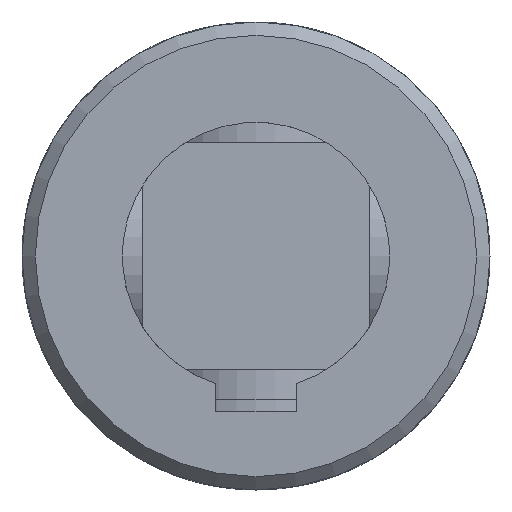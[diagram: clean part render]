
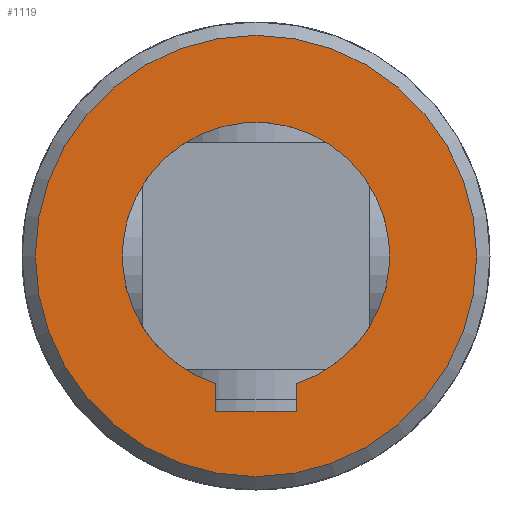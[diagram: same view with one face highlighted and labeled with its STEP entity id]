
A CAD part, front view. The second image highlights one B-rep face of the part: STEP entity #1119.
In plain terms, the highlighted planar face has unit normal (0, -1, 0).
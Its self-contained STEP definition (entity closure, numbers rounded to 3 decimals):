
#127=LINE('',#2052,#170);
#130=LINE('',#2065,#173);
#132=LINE('',#2071,#175);
#170=VECTOR('',#1450,4.221);
#173=VECTOR('',#1455,12.);
#175=VECTOR('',#1461,4.221);
#214=PLANE('',#1232);
#253=FACE_BOUND('',#406,.T.);
#308=FACE_OUTER_BOUND('',#405,.T.);
#405=EDGE_LOOP('',(#954));
#406=EDGE_LOOP('',(#955,#956,#957,#958));
#468=CIRCLE('',#1227,20.);
#470=CIRCLE('',#1230,33.);
#551=VERTEX_POINT('',#2049);
#552=VERTEX_POINT('',#2051);
#554=VERTEX_POINT('',#2063);
#556=VERTEX_POINT('',#2069);
#562=VERTEX_POINT('',#2141);
#683=EDGE_CURVE('',#552,#551,#127,.T.);
#687=EDGE_CURVE('',#551,#554,#130,.T.);
#690=EDGE_CURVE('',#554,#556,#132,.T.);
#696=EDGE_CURVE('',#556,#552,#468,.T.);
#698=EDGE_CURVE('',#562,#562,#470,.T.);
#954=ORIENTED_EDGE('',*,*,#698,.F.);
#955=ORIENTED_EDGE('',*,*,#683,.T.);
#956=ORIENTED_EDGE('',*,*,#687,.T.);
#957=ORIENTED_EDGE('',*,*,#690,.T.);
#958=ORIENTED_EDGE('',*,*,#696,.T.);
#1119=ADVANCED_FACE('',(#308,#253),#214,.F.);
#1227=AXIS2_PLACEMENT_3D('',#2137,#1470,#1471);
#1230=AXIS2_PLACEMENT_3D('',#2142,#1476,#1477);
#1232=AXIS2_PLACEMENT_3D('',#2374,#1484,#1485);
#1450=DIRECTION('',(0.,0.,-1.));
#1455=DIRECTION('',(-1.,0.,0.));
#1461=DIRECTION('',(0.,0.,1.));
#1470=DIRECTION('center_axis',(0.,1.,0.));
#1471=DIRECTION('ref_axis',(-0.3,0.,0.954));
#1476=DIRECTION('center_axis',(0.,1.,0.));
#1477=DIRECTION('ref_axis',(1.,0.,0.));
#1484=DIRECTION('center_axis',(0.,1.,0.));
#1485=DIRECTION('ref_axis',(0.,0.,1.));
#2049=CARTESIAN_POINT('',(6.,-100.,-23.3));
#2051=CARTESIAN_POINT('',(6.,-100.,-19.079));
#2052=CARTESIAN_POINT('',(6.,-100.,-9.539));
#2063=CARTESIAN_POINT('',(-6.,-100.,-23.3));
#2065=CARTESIAN_POINT('',(3.,-100.,-23.3));
#2069=CARTESIAN_POINT('',(-6.,-100.,-19.079));
#2071=CARTESIAN_POINT('',(-6.,-100.,-11.65));
#2137=CARTESIAN_POINT('Origin',(0.,-100.,0.));
#2141=CARTESIAN_POINT('',(-33.,-100.,0.));
#2142=CARTESIAN_POINT('Origin',(0.,-100.,0.));
#2374=CARTESIAN_POINT('Origin',(0.,-100.,0.));
